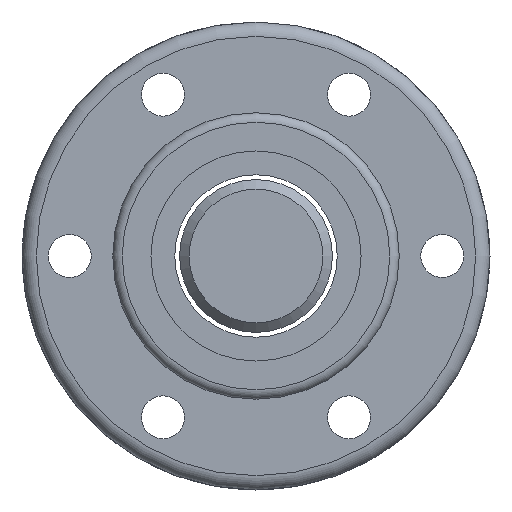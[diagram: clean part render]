
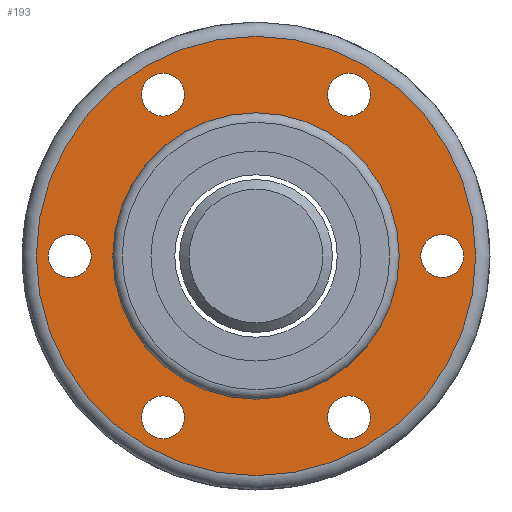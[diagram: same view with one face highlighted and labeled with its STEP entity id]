
A CAD part, left-side view. The second image highlights one B-rep face of the part: STEP entity #193.
In plain terms, the highlighted planar face has unit normal (-1, 0, 0).
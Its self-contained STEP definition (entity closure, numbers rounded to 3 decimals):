
#144=PLANE('',#830);
#165=FACE_OUTER_BOUND('',#363,.T.);
#193=ADVANCED_FACE('',(#261,#262,#263,#264,#265,#266,#165,#267),#144,.T.);
#261=FACE_BOUND('',#357,.T.);
#262=FACE_BOUND('',#358,.T.);
#263=FACE_BOUND('',#359,.T.);
#264=FACE_BOUND('',#360,.T.);
#265=FACE_BOUND('',#361,.T.);
#266=FACE_BOUND('',#362,.T.);
#267=FACE_BOUND('',#364,.T.);
#357=EDGE_LOOP('',(#473));
#358=EDGE_LOOP('',(#474));
#359=EDGE_LOOP('',(#475));
#360=EDGE_LOOP('',(#476));
#361=EDGE_LOOP('',(#477));
#362=EDGE_LOOP('',(#478));
#363=EDGE_LOOP('',(#479));
#364=EDGE_LOOP('',(#480));
#473=ORIENTED_EDGE('',*,*,#675,.F.);
#474=ORIENTED_EDGE('',*,*,#676,.F.);
#475=ORIENTED_EDGE('',*,*,#677,.F.);
#476=ORIENTED_EDGE('',*,*,#678,.F.);
#477=ORIENTED_EDGE('',*,*,#679,.F.);
#478=ORIENTED_EDGE('',*,*,#680,.F.);
#479=ORIENTED_EDGE('',*,*,#681,.T.);
#480=ORIENTED_EDGE('',*,*,#682,.F.);
#609=VERTEX_POINT('',#1200);
#610=VERTEX_POINT('',#1202);
#611=VERTEX_POINT('',#1204);
#612=VERTEX_POINT('',#1206);
#613=VERTEX_POINT('',#1208);
#614=VERTEX_POINT('',#1210);
#615=VERTEX_POINT('',#1212);
#616=VERTEX_POINT('',#1214);
#675=EDGE_CURVE('',#609,#609,#747,.T.);
#676=EDGE_CURVE('',#610,#610,#748,.T.);
#677=EDGE_CURVE('',#611,#611,#749,.T.);
#678=EDGE_CURVE('',#612,#612,#750,.T.);
#679=EDGE_CURVE('',#613,#613,#751,.T.);
#680=EDGE_CURVE('',#614,#614,#752,.T.);
#681=EDGE_CURVE('',#615,#615,#753,.T.);
#682=EDGE_CURVE('',#616,#616,#754,.T.);
#747=CIRCLE('',#822,2.25);
#748=CIRCLE('',#823,2.25);
#749=CIRCLE('',#824,2.25);
#750=CIRCLE('',#825,2.25);
#751=CIRCLE('',#826,2.25);
#752=CIRCLE('',#827,2.25);
#753=CIRCLE('',#828,23.);
#754=CIRCLE('',#829,15.);
#822=AXIS2_PLACEMENT_3D('',#1199,#962,#963);
#823=AXIS2_PLACEMENT_3D('',#1201,#964,#965);
#824=AXIS2_PLACEMENT_3D('',#1203,#966,#967);
#825=AXIS2_PLACEMENT_3D('',#1205,#968,#969);
#826=AXIS2_PLACEMENT_3D('',#1207,#970,#971);
#827=AXIS2_PLACEMENT_3D('',#1209,#972,#973);
#828=AXIS2_PLACEMENT_3D('',#1211,#974,#975);
#829=AXIS2_PLACEMENT_3D('',#1213,#976,#977);
#830=AXIS2_PLACEMENT_3D('',#1215,#978,#979);
#962=DIRECTION('',(-1.,0.,0.));
#963=DIRECTION('',(0.,0.,1.));
#964=DIRECTION('',(-1.,0.,0.));
#965=DIRECTION('',(0.,0.,1.));
#966=DIRECTION('',(-1.,0.,0.));
#967=DIRECTION('',(0.,0.,1.));
#968=DIRECTION('',(-1.,0.,0.));
#969=DIRECTION('',(0.,0.,1.));
#970=DIRECTION('',(-1.,0.,0.));
#971=DIRECTION('',(0.,0.,1.));
#972=DIRECTION('',(-1.,0.,0.));
#973=DIRECTION('',(0.,0.,1.));
#974=DIRECTION('',(-1.,0.,0.));
#975=DIRECTION('',(0.,0.,1.));
#976=DIRECTION('',(-1.,0.,0.));
#977=DIRECTION('',(0.,0.,1.));
#978=DIRECTION('',(-1.,0.,0.));
#979=DIRECTION('',(0.,0.,1.));
#1199=CARTESIAN_POINT('',(-25.,9.75,-16.887));
#1200=CARTESIAN_POINT('',(-25.,9.75,-14.637));
#1201=CARTESIAN_POINT('',(-25.,-9.75,-16.887));
#1202=CARTESIAN_POINT('',(-25.,-9.75,-14.637));
#1203=CARTESIAN_POINT('',(-25.,-19.5,0.));
#1204=CARTESIAN_POINT('',(-25.,-19.5,2.25));
#1205=CARTESIAN_POINT('',(-25.,-9.75,16.887));
#1206=CARTESIAN_POINT('',(-25.,-9.75,19.137));
#1207=CARTESIAN_POINT('',(-25.,9.75,16.887));
#1208=CARTESIAN_POINT('',(-25.,9.75,19.137));
#1209=CARTESIAN_POINT('',(-25.,19.5,0.));
#1210=CARTESIAN_POINT('',(-25.,19.5,2.25));
#1211=CARTESIAN_POINT('',(-25.,0.,0.));
#1212=CARTESIAN_POINT('',(-25.,0.,23.));
#1213=CARTESIAN_POINT('',(-25.,0.,0.));
#1214=CARTESIAN_POINT('',(-25.,0.,15.));
#1215=CARTESIAN_POINT('',(-25.,19.,0.));
